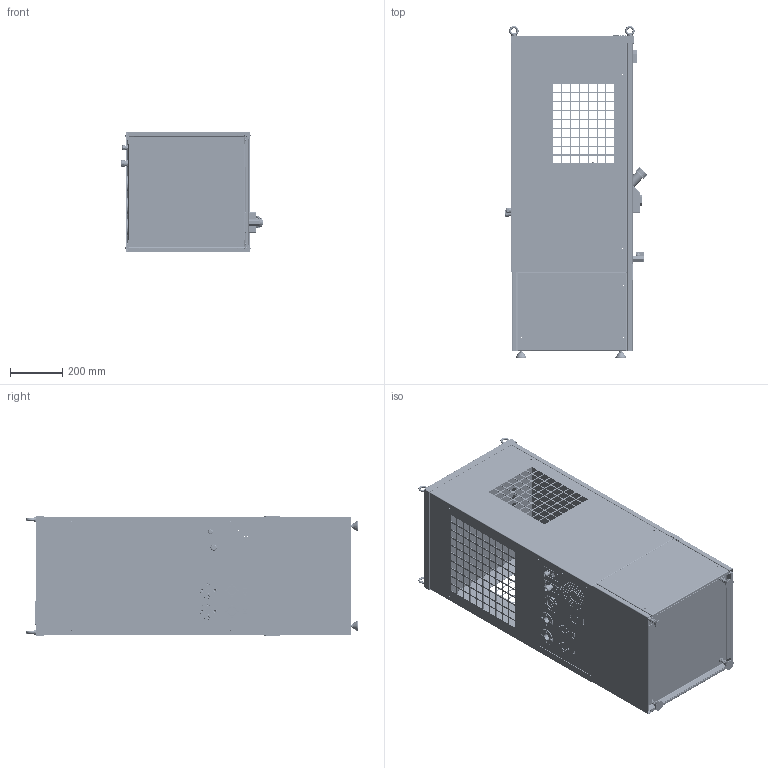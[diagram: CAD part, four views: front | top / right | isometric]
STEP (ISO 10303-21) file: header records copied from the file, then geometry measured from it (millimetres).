
FILE_DESCRIPTION (( 'STEP AP214' ), '1' );
FILE_NAME ('50-1C-00006 + 50-1C-00114.STEP', '2018-12-11T12:59:01', ( 'Utente' ), ( 'Microsoft' ), 'SwSTEP 2.0', 'SolidWorks 2013', '' );
FILE_SCHEMA (( 'AUTOMOTIVE_DESIGN' ));
Length unit declared in the file: millimetre
Products named in the file (44): SE-RP-00039_000; CR-1C-00028_002; RIVELOX M5; INSERTO ESAG  1G; CR-1C-00025_001; VR-1C-00058_000B; SE-RP-00039_000_CORPO; CR-1C-00026_001; VR-1C-00058_000A; MA-N1-00001_MANOMETRO ACQUA 40mm 0-12 BAR; Dado M10; 50-1C-00006 + 50-1C-00114; ST-AT-00021_002; PG 13.5_Cable-Gland-1.209.1300.14-Nelco; SELETTORE_PICCOLO; PG 13.5_1_Socket-1.209.1300.14-Nelco; 50-1C-00114; PG 13.5_2_Nut-PA-Grey-24-24-27-Nelco; AN-PI-00014_ANTIVIBRANTI MM PIEDE 40X20h M10; pg 9_Cable-Gland-1.209.0900.14-Nelco; PG 9_2_Nut-PA-Grey-19-19-22-Nelco; VR-1C-00057_000; PG 9_1_Socket-1.209.0900.14-Nelco; VR-1C-00056_000; TA-RG-00041; VR-1C-00055_000; GOLFARE M8; VR-1C-00058_000; TE-EL-00007 - EW_971_230V; VR-1C-00058_000F; VR-1C-00015_002; VR-1C-00058_000E_Default<A macchina>; VR-1C-00014_002; VR-1C-00058_000D; IN-VI-00001; VR-1C-00037_003; TAPPO 1P  FEM ; VR-1C-00018_003; VR-1C-00058_000C; VA-A5-00001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
Assembly tree (62 placements, depth 5):
  50-1C-00006 + 50-1C-00114
    CR-1C-00026_001
    CR-1C-00025_001
    CR-1C-00028_002
    VR-1C-00017_003
    VR-1C-00018_003
    VR-1C-00037_003
    VR-1C-00014_002
    VR-1C-00015_002
    TE-EL-00007 - EW_971_230V
    GOLFARE M8  x4
    TA-RG-00041
    pg 9_Cable-Gland-1.209.0900.14-Nelco
      PG 9_1_Socket-1.209.0900.14-Nelco
      PG 9_2_Nut-PA-Grey-19-19-22-Nelco
    PG 13.5_Cable-Gland-1.209.1300.14-Nelco
      PG 13.5_2_Nut-PA-Grey-24-24-27-Nelco
      PG 13.5_1_Socket-1.209.1300.14-Nelco
    50-1C-00114
      VR-1C-00058_000
        VR-1C-00058_000A
          VR-1C-00058_000A
          Dado M10  x4
        VR-1C-00058_000B
          VR-1C-00058_000B
          RIVELOX M5  x4
        VR-1C-00058_000C
        VR-1C-00058_000D
          VR-1C-00058_000D
          RIVELOX M5  x4
        VR-1C-00058_000E_Default<A macchina>
        VR-1C-00058_000F  x2
      VR-1C-00055_000
      VR-1C-00056_000  x2
      VR-1C-00057_000
      AN-PI-00014_ANTIVIBRANTI MM PIEDE 40X20h M10  x4
    SELETTORE_PICCOLO
    ST-AT-00021_002  x2
    MA-N1-00001_MANOMETRO ACQUA 40mm 0-12 BAR
    SE-RP-00039_000
      SE-RP-00039_000_CORPO
      INSERTO ESAG  1G
    VA-A5-00001
    TAPPO 1P  FEM 
    IN-VI-00001
Bounding box: 543.31 x 1265 x 460 mm (x, y, z)
Volume: 7068889.8 mm3; surface area: 8510419.6 mm2
Topology: 178 solids, 178 shells, 7042 faces, 18189 edges, 11557 vertices
Faces by surface type: plane 4389, cylinder 1665, cone 401, bspline 390, torus 150, sphere 47
Entity records: 237427 total; most frequent: CARTESIAN_POINT 60289, ORIENTED_EDGE 34408, DIRECTION 31804, EDGE_CURVE 17204, VECTOR 12254, LINE 12254, VERTEX_POINT 10959, AXIS2_PLACEMENT_3D 9775
